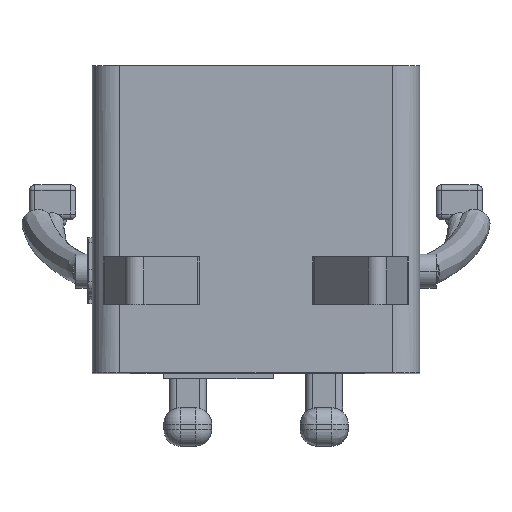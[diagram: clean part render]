
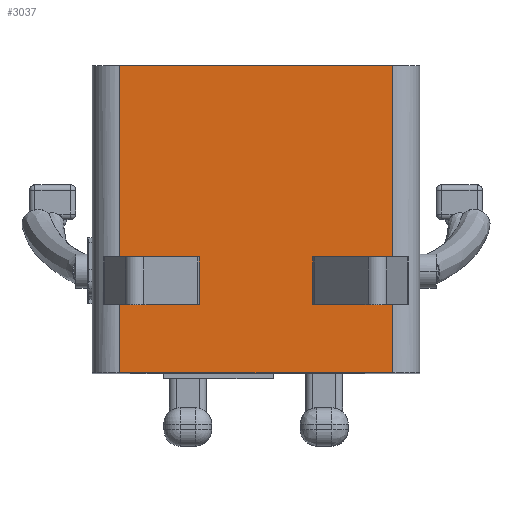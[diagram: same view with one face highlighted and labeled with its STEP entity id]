
A CAD part, top view. The second image highlights one B-rep face of the part: STEP entity #3037.
In plain terms, the highlighted planar face has unit normal (0, 0, 1).
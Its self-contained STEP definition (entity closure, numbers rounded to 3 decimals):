
#697 = EDGE_CURVE('',#698,#700,#702,.T.);
#698 = VERTEX_POINT('',#699);
#699 = CARTESIAN_POINT('',(20.,30.,75.));
#700 = VERTEX_POINT('',#701);
#701 = CARTESIAN_POINT('',(-20.,30.,75.));
#702 = LINE('',#703,#704);
#703 = CARTESIAN_POINT('',(-37.5,30.,75.));
#704 = VECTOR('',#705,1.);
#705 = DIRECTION('',(-1.,0.,0.));
#1101 = VERTEX_POINT('',#1102);
#1102 = CARTESIAN_POINT('',(20.,-15.,75.));
#1109 = EDGE_CURVE('',#1110,#1101,#1112,.T.);
#1110 = VERTEX_POINT('',#1111);
#1111 = CARTESIAN_POINT('',(-20.,-15.,75.));
#1112 = LINE('',#1113,#1114);
#1113 = CARTESIAN_POINT('',(-20.,-15.,75.));
#1114 = VECTOR('',#1115,1.);
#1115 = DIRECTION('',(1.,0.,0.));
#1572 = EDGE_CURVE('',#1573,#698,#1575,.T.);
#1573 = VERTEX_POINT('',#1574);
#1574 = CARTESIAN_POINT('',(20.,2.,75.));
#1575 = LINE('',#1576,#1577);
#1576 = CARTESIAN_POINT('',(20.,-15.,75.));
#1577 = VECTOR('',#1578,1.);
#1578 = DIRECTION('',(0.,1.,0.));
#1598 = VERTEX_POINT('',#1599);
#1599 = CARTESIAN_POINT('',(20.,-5.,75.));
#1606 = EDGE_CURVE('',#1101,#1598,#1607,.T.);
#1607 = LINE('',#1608,#1609);
#1608 = CARTESIAN_POINT('',(20.,-15.,75.));
#1609 = VECTOR('',#1610,1.);
#1610 = DIRECTION('',(0.,1.,0.));
#3037 = ADVANCED_FACE('',(#3038),#3104,.T.);
#3038 = FACE_BOUND('',#3039,.T.);
#3039 = EDGE_LOOP('',(#3040,#3048,#3056,#3064,#3072,#3078,#3079,#3080,
    #3088,#3096,#3102,#3103));
#3040 = ORIENTED_EDGE('',*,*,#3041,.F.);
#3041 = EDGE_CURVE('',#3042,#700,#3044,.T.);
#3042 = VERTEX_POINT('',#3043);
#3043 = CARTESIAN_POINT('',(-20.,2.,75.));
#3044 = LINE('',#3045,#3046);
#3045 = CARTESIAN_POINT('',(-20.,11.7,75.));
#3046 = VECTOR('',#3047,1.);
#3047 = DIRECTION('',(0.,1.,0.));
#3048 = ORIENTED_EDGE('',*,*,#3049,.F.);
#3049 = EDGE_CURVE('',#3050,#3042,#3052,.T.);
#3050 = VERTEX_POINT('',#3051);
#3051 = CARTESIAN_POINT('',(-8.312,2.,75.));
#3052 = LINE('',#3053,#3054);
#3053 = CARTESIAN_POINT('',(-7.999,2.,75.));
#3054 = VECTOR('',#3055,1.);
#3055 = DIRECTION('',(-1.,0.,0.));
#3056 = ORIENTED_EDGE('',*,*,#3057,.T.);
#3057 = EDGE_CURVE('',#3050,#3058,#3060,.T.);
#3058 = VERTEX_POINT('',#3059);
#3059 = CARTESIAN_POINT('',(-8.312,-5.,75.));
#3060 = LINE('',#3061,#3062);
#3061 = CARTESIAN_POINT('',(-8.312,-5.,75.));
#3062 = VECTOR('',#3063,1.);
#3063 = DIRECTION('',(-0.,-1.,-0.));
#3064 = ORIENTED_EDGE('',*,*,#3065,.T.);
#3065 = EDGE_CURVE('',#3058,#3066,#3068,.T.);
#3066 = VERTEX_POINT('',#3067);
#3067 = CARTESIAN_POINT('',(-20.,-5.,75.));
#3068 = LINE('',#3069,#3070);
#3069 = CARTESIAN_POINT('',(-7.999,-5.,75.));
#3070 = VECTOR('',#3071,1.);
#3071 = DIRECTION('',(-1.,0.,0.));
#3072 = ORIENTED_EDGE('',*,*,#3073,.F.);
#3073 = EDGE_CURVE('',#1110,#3066,#3074,.T.);
#3074 = LINE('',#3075,#3076);
#3075 = CARTESIAN_POINT('',(-20.,-15.,75.));
#3076 = VECTOR('',#3077,1.);
#3077 = DIRECTION('',(0.,1.,0.));
#3078 = ORIENTED_EDGE('',*,*,#1109,.T.);
#3079 = ORIENTED_EDGE('',*,*,#1606,.T.);
#3080 = ORIENTED_EDGE('',*,*,#3081,.F.);
#3081 = EDGE_CURVE('',#3082,#1598,#3084,.T.);
#3082 = VERTEX_POINT('',#3083);
#3083 = CARTESIAN_POINT('',(8.312,-5.,75.));
#3084 = LINE('',#3085,#3086);
#3085 = CARTESIAN_POINT('',(7.999,-5.,75.));
#3086 = VECTOR('',#3087,1.);
#3087 = DIRECTION('',(1.,0.,0.));
#3088 = ORIENTED_EDGE('',*,*,#3089,.F.);
#3089 = EDGE_CURVE('',#3090,#3082,#3092,.T.);
#3090 = VERTEX_POINT('',#3091);
#3091 = CARTESIAN_POINT('',(8.312,2.,75.));
#3092 = LINE('',#3093,#3094);
#3093 = CARTESIAN_POINT('',(8.312,-5.,75.));
#3094 = VECTOR('',#3095,1.);
#3095 = DIRECTION('',(0.,-1.,0.));
#3096 = ORIENTED_EDGE('',*,*,#3097,.T.);
#3097 = EDGE_CURVE('',#3090,#1573,#3098,.T.);
#3098 = LINE('',#3099,#3100);
#3099 = CARTESIAN_POINT('',(7.999,2.,75.));
#3100 = VECTOR('',#3101,1.);
#3101 = DIRECTION('',(1.,0.,0.));
#3102 = ORIENTED_EDGE('',*,*,#1572,.T.);
#3103 = ORIENTED_EDGE('',*,*,#697,.T.);
#3104 = PLANE('',#3105);
#3105 = AXIS2_PLACEMENT_3D('',#3106,#3107,#3108);
#3106 = CARTESIAN_POINT('',(0.,8.157,75.));
#3107 = DIRECTION('',(0.,0.,1.));
#3108 = DIRECTION('',(1.,0.,0.));
